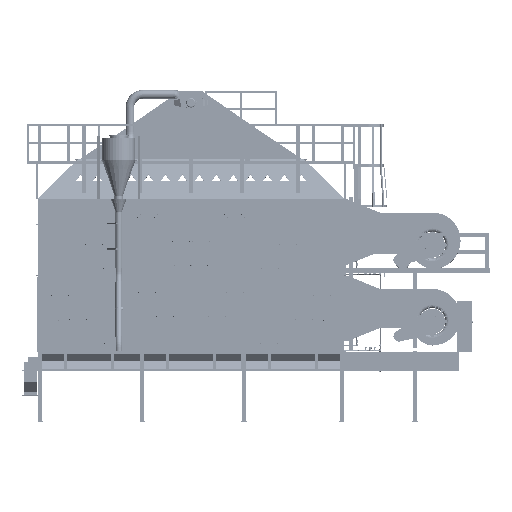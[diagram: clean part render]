
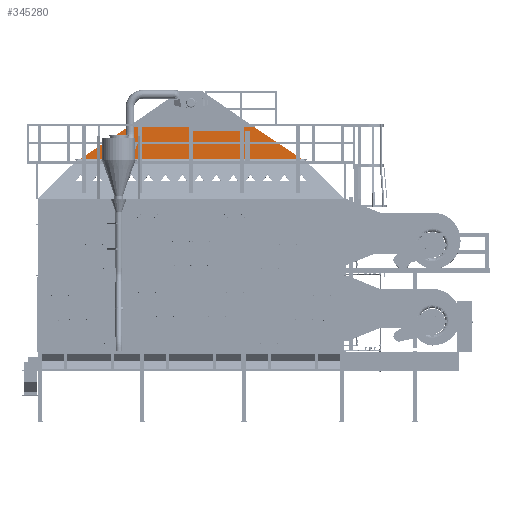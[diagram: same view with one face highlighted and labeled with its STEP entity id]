
A CAD part, top view. The second image highlights one B-rep face of the part: STEP entity #345280.
In plain terms, the highlighted planar face has unit normal (0, 0, 1) as drawn and (0, 1, 0) by its records, which use the part's own axes.
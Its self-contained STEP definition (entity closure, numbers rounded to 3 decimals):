
#63482=FACE_OUTER_BOUND('',#83952,.T.);
#83952=EDGE_LOOP('',(#307952,#307953,#307954,#307955));
#109470=LINE('',#801476,#137870);
#109480=LINE('',#801496,#137880);
#109481=LINE('',#801498,#137881);
#109482=LINE('',#801499,#137882);
#137870=VECTOR('',#454280,0.394);
#137880=VECTOR('',#454300,0.394);
#137881=VECTOR('',#454301,0.394);
#137882=VECTOR('',#454302,0.394);
#170410=VERTEX_POINT('',#801473);
#170411=VERTEX_POINT('',#801475);
#170416=VERTEX_POINT('',#801495);
#170417=VERTEX_POINT('',#801497);
#216935=EDGE_CURVE('',#170411,#170410,#109470,.T.);
#216945=EDGE_CURVE('',#170410,#170416,#109480,.T.);
#216946=EDGE_CURVE('',#170417,#170416,#109481,.T.);
#216947=EDGE_CURVE('',#170417,#170411,#109482,.T.);
#307952=ORIENTED_EDGE('',*,*,#216935,.T.);
#307953=ORIENTED_EDGE('',*,*,#216945,.T.);
#307954=ORIENTED_EDGE('',*,*,#216946,.F.);
#307955=ORIENTED_EDGE('',*,*,#216947,.T.);
#326916=PLANE('',#375586);
#345280=ADVANCED_FACE('',(#63482),#326916,.T.);
#375586=AXIS2_PLACEMENT_3D('',#801494,#454298,#454299);
#454280=DIRECTION('',(-1.,0.,0.));
#454298=DIRECTION('center_axis',(0.,1.,0.));
#454299=DIRECTION('ref_axis',(0.,0.,1.));
#454300=DIRECTION('',(0.833,0.,0.554));
#454301=DIRECTION('',(-1.,0.,0.));
#454302=DIRECTION('',(0.833,0.,-0.554));
#801473=CARTESIAN_POINT('',(-106.562,6.,-31.875));
#801475=CARTESIAN_POINT('',(106.562,6.,-31.875));
#801476=CARTESIAN_POINT('',(0.,6.,-31.875));
#801494=CARTESIAN_POINT('Origin',(0.,6.,-16.));
#801495=CARTESIAN_POINT('',(-58.625,6.,0.));
#801496=CARTESIAN_POINT('',(-106.75,6.,-32.));
#801497=CARTESIAN_POINT('',(58.625,6.,0.));
#801498=CARTESIAN_POINT('',(0.,6.,0.));
#801499=CARTESIAN_POINT('',(58.625,6.,0.));
